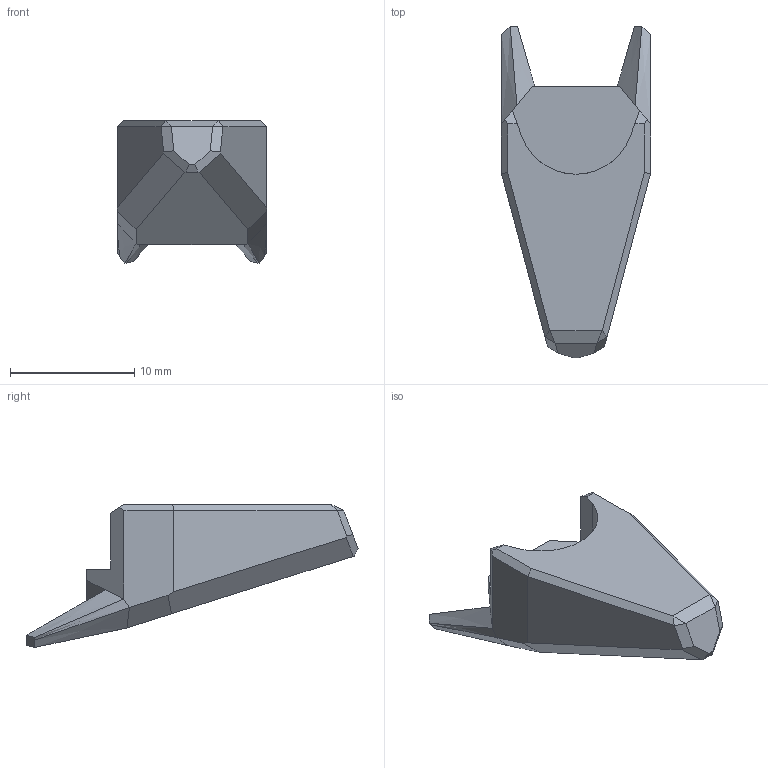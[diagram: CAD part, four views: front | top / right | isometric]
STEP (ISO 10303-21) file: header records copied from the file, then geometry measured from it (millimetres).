
FILE_DESCRIPTION (( 'STEP AP214' ), '1' );
FILE_NAME ('Head Armor.STEP', '2023-12-23T22:29:30', ( '' ), ( '' ), 'SwSTEP 2.0', 'SolidWorks 2023', '' );
FILE_SCHEMA (( 'AUTOMOTIVE_DESIGN' ));
Length unit declared in the file: millimetre
Products named in the file (1): Head Armor
Bounding box: 12 x 26.72 x 11.51 mm (x, y, z)
Volume: 1153.5 mm3; surface area: 929 mm2
Topology: 1 solids, 1 shells, 53 faces, 133 edges, 82 vertices
Faces by surface type: plane 40, bspline 12, cylinder 1
Entity records: 1671 total; most frequent: CARTESIAN_POINT 452, ORIENTED_EDGE 266, DIRECTION 206, EDGE_CURVE 133, LINE 114, VECTOR 114, VERTEX_POINT 82, ADVANCED_FACE 53
